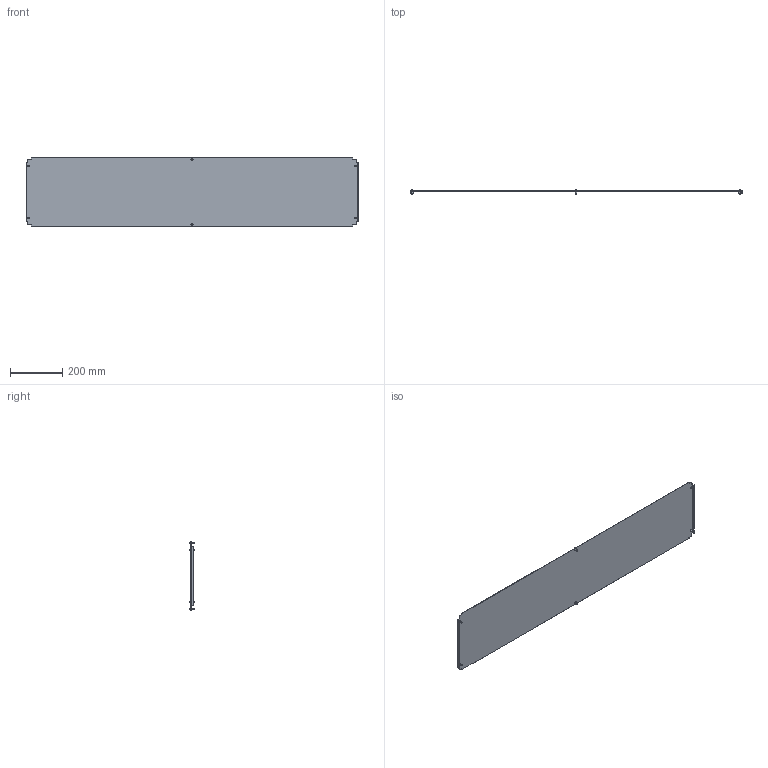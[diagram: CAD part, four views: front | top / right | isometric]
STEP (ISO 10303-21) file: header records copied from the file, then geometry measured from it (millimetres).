
FILE_DESCRIPTION (( 'STEP AP203' ), '1' );
FILE_NAME ('R5N1BP144.STEP', '2025-02-21T14:00:39', ( '' ), ( '' ), 'SwSTEP 2.0', 'SolidWorks 2022', '' );
FILE_SCHEMA (( 'CONFIG_CONTROL_DESIGN' ));
Length unit declared in the file: millimetre
Products named in the file (3): RB.1923.00.00.0_-28; R5N1BP144; M5x12 DIN 7500 C Torx Zinc_stright
Assembly tree (7 placements, depth 2):
  R5N1BP144
    RB.1923.00.00.0_-28
    M5x12 DIN 7500 C Torx Zinc_stright  x6
Bounding box: 1268 x 15.56 x 262 mm (x, y, z)
Volume: 504436 mm3; surface area: 676569.4 mm2
Topology: 7 solids, 7 shells, 166 faces, 384 edges, 238 vertices
Faces by surface type: plane 106, cylinder 24, torus 12, cone 12, sphere 6, bspline 6
Full cylindrical faces by diameter (mm): 5 x6, 9.5 x6
Entity records: 3297 total; most frequent: CARTESIAN_POINT 674, ORIENTED_EDGE 448, DIRECTION 444, EDGE_CURVE 224, VECTOR 180, LINE 180, VERTEX_POINT 150, AXIS2_PLACEMENT_3D 132
